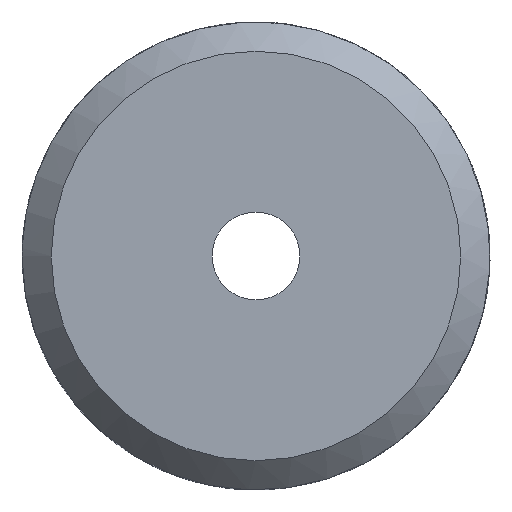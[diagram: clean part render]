
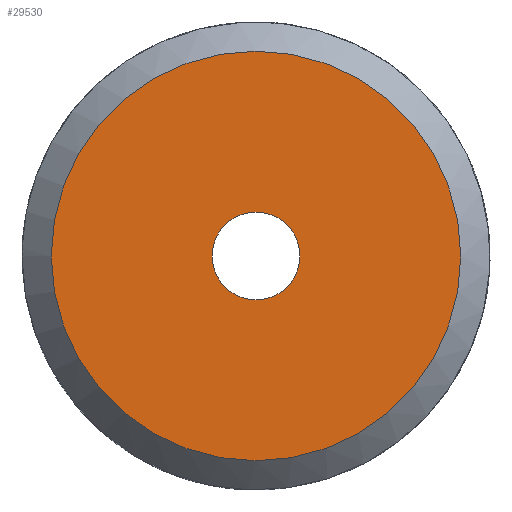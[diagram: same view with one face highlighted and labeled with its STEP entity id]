
A CAD part, left-side view. The second image highlights one B-rep face of the part: STEP entity #29530.
In plain terms, the highlighted planar face has unit normal (-1, 0, 0).
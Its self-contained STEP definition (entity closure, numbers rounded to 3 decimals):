
#8386=PLANE('',#29135);
#9633=ORIENTED_EDGE('',*,*,#11974,.F.);
#9634=ORIENTED_EDGE('',*,*,#11975,.F.);
#10974=CIRCLE('',#29134,3.5);
#10975=CIRCLE('',#29136,0.75);
#11315=VERTEX_POINT('',#18680);
#11316=VERTEX_POINT('',#18683);
#11974=EDGE_CURVE('',#11315,#11315,#10974,.T.);
#11975=EDGE_CURVE('',#11316,#11316,#10975,.T.);
#12605=EDGE_LOOP('',(#9633));
#12606=EDGE_LOOP('',(#9634));
#12870=FACE_BOUND('',#12605,.T.);
#12871=FACE_BOUND('',#12606,.T.);
#13343=DIRECTION('',(1.,0.,0.));
#13344=DIRECTION('',(0.,0.,-3.5));
#13345=DIRECTION('',(-1.,0.,0.));
#13346=DIRECTION('',(0.,1.,0.));
#13347=DIRECTION('',(-1.,0.,0.));
#13348=DIRECTION('',(0.,0.,0.75));
#18680=CARTESIAN_POINT('',(55.952,166.097,-3.5));
#18681=CARTESIAN_POINT('',(55.952,166.097,0.));
#18682=CARTESIAN_POINT('',(55.952,166.097,-3.5));
#18683=CARTESIAN_POINT('',(55.952,166.097,0.75));
#18684=CARTESIAN_POINT('',(55.952,166.097,0.));
#29134=AXIS2_PLACEMENT_3D('',#18681,#13343,#13344);
#29135=AXIS2_PLACEMENT_3D('',#18682,#13345,#13346);
#29136=AXIS2_PLACEMENT_3D('',#18684,#13347,#13348);
#29530=ADVANCED_FACE('',(#12870,#12871),#8386,.T.);
